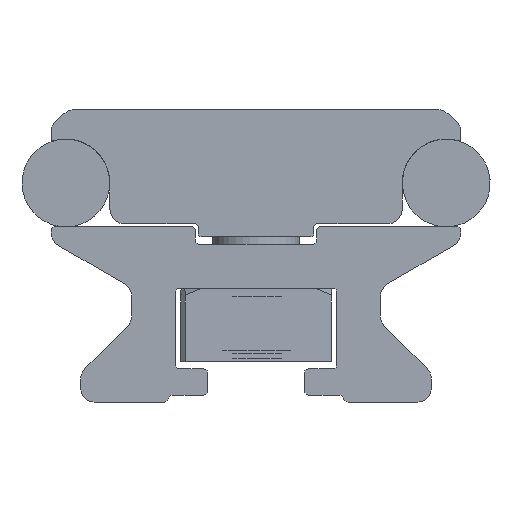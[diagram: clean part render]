
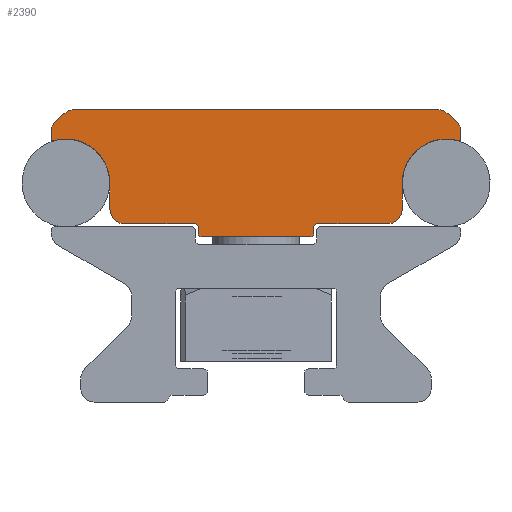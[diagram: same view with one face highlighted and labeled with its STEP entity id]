
A CAD part, left-side view. The second image highlights one B-rep face of the part: STEP entity #2390.
In plain terms, the highlighted planar face has unit normal (-1, 0, 0).
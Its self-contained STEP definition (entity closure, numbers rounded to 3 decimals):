
#105=CIRCLE('',#2563,3.011);
#107=CIRCLE('',#2566,0.1);
#109=CIRCLE('',#2570,1.);
#111=CIRCLE('',#2574,1.);
#120=CIRCLE('',#2585,1.);
#122=CIRCLE('',#2589,1.);
#124=CIRCLE('',#2593,0.1);
#126=CIRCLE('',#2596,3.011);
#128=CIRCLE('',#2600,1.);
#130=CIRCLE('',#2604,0.2);
#132=CIRCLE('',#2608,0.2);
#141=CIRCLE('',#2619,0.2);
#143=CIRCLE('',#2623,0.2);
#145=CIRCLE('',#2627,1.);
#437=ORIENTED_EDGE('',*,*,#949,.F.);
#438=ORIENTED_EDGE('',*,*,#1039,.F.);
#439=ORIENTED_EDGE('',*,*,#1036,.F.);
#440=ORIENTED_EDGE('',*,*,#1033,.F.);
#441=ORIENTED_EDGE('',*,*,#1030,.F.);
#442=ORIENTED_EDGE('',*,*,#1027,.F.);
#443=ORIENTED_EDGE('',*,*,#1024,.F.);
#444=ORIENTED_EDGE('',*,*,#1014,.F.);
#445=ORIENTED_EDGE('',*,*,#1011,.F.);
#446=ORIENTED_EDGE('',*,*,#1008,.F.);
#447=ORIENTED_EDGE('',*,*,#1005,.F.);
#448=ORIENTED_EDGE('',*,*,#1002,.F.);
#449=ORIENTED_EDGE('',*,*,#999,.F.);
#450=ORIENTED_EDGE('',*,*,#996,.F.);
#451=ORIENTED_EDGE('',*,*,#993,.F.);
#452=ORIENTED_EDGE('',*,*,#990,.F.);
#453=ORIENTED_EDGE('',*,*,#987,.F.);
#454=ORIENTED_EDGE('',*,*,#984,.F.);
#455=ORIENTED_EDGE('',*,*,#981,.F.);
#456=ORIENTED_EDGE('',*,*,#978,.F.);
#457=ORIENTED_EDGE('',*,*,#968,.F.);
#458=ORIENTED_EDGE('',*,*,#965,.F.);
#459=ORIENTED_EDGE('',*,*,#962,.F.);
#460=ORIENTED_EDGE('',*,*,#959,.F.);
#461=ORIENTED_EDGE('',*,*,#956,.F.);
#462=ORIENTED_EDGE('',*,*,#953,.F.);
#949=EDGE_CURVE('',#1277,#1278,#1510,.T.);
#953=EDGE_CURVE('',#1278,#1281,#105,.T.);
#956=EDGE_CURVE('',#1281,#1283,#107,.T.);
#959=EDGE_CURVE('',#1283,#1285,#1516,.T.);
#962=EDGE_CURVE('',#1285,#1287,#109,.T.);
#965=EDGE_CURVE('',#1287,#1289,#1520,.T.);
#968=EDGE_CURVE('',#1289,#1291,#111,.T.);
#978=EDGE_CURVE('',#1291,#1300,#1524,.T.);
#981=EDGE_CURVE('',#1300,#1302,#120,.T.);
#984=EDGE_CURVE('',#1302,#1304,#1528,.T.);
#987=EDGE_CURVE('',#1304,#1306,#122,.T.);
#990=EDGE_CURVE('',#1306,#1308,#1532,.T.);
#993=EDGE_CURVE('',#1308,#1310,#124,.T.);
#996=EDGE_CURVE('',#1310,#1312,#126,.T.);
#999=EDGE_CURVE('',#1312,#1314,#1537,.T.);
#1002=EDGE_CURVE('',#1314,#1316,#128,.T.);
#1005=EDGE_CURVE('',#1316,#1318,#1541,.T.);
#1008=EDGE_CURVE('',#1318,#1320,#130,.T.);
#1011=EDGE_CURVE('',#1320,#1322,#1545,.T.);
#1014=EDGE_CURVE('',#1322,#1324,#132,.T.);
#1024=EDGE_CURVE('',#1324,#1333,#1549,.T.);
#1027=EDGE_CURVE('',#1333,#1335,#141,.T.);
#1030=EDGE_CURVE('',#1335,#1337,#1553,.T.);
#1033=EDGE_CURVE('',#1337,#1339,#143,.T.);
#1036=EDGE_CURVE('',#1339,#1341,#1557,.T.);
#1039=EDGE_CURVE('',#1341,#1277,#145,.T.);
#1277=VERTEX_POINT('',#3619);
#1278=VERTEX_POINT('',#3620);
#1281=VERTEX_POINT('',#3628);
#1283=VERTEX_POINT('',#3634);
#1285=VERTEX_POINT('',#3640);
#1287=VERTEX_POINT('',#3646);
#1289=VERTEX_POINT('',#3652);
#1291=VERTEX_POINT('',#3658);
#1300=VERTEX_POINT('',#3678);
#1302=VERTEX_POINT('',#3684);
#1304=VERTEX_POINT('',#3690);
#1306=VERTEX_POINT('',#3696);
#1308=VERTEX_POINT('',#3702);
#1310=VERTEX_POINT('',#3708);
#1312=VERTEX_POINT('',#3714);
#1314=VERTEX_POINT('',#3720);
#1316=VERTEX_POINT('',#3726);
#1318=VERTEX_POINT('',#3732);
#1320=VERTEX_POINT('',#3738);
#1322=VERTEX_POINT('',#3744);
#1324=VERTEX_POINT('',#3750);
#1333=VERTEX_POINT('',#3770);
#1335=VERTEX_POINT('',#3776);
#1337=VERTEX_POINT('',#3782);
#1339=VERTEX_POINT('',#3788);
#1341=VERTEX_POINT('',#3794);
#1510=LINE('',#3618,#1711);
#1516=LINE('',#3639,#1717);
#1520=LINE('',#3651,#1721);
#1524=LINE('',#3677,#1725);
#1528=LINE('',#3689,#1729);
#1532=LINE('',#3701,#1733);
#1537=LINE('',#3719,#1738);
#1541=LINE('',#3731,#1742);
#1545=LINE('',#3743,#1746);
#1549=LINE('',#3769,#1750);
#1553=LINE('',#3781,#1754);
#1557=LINE('',#3793,#1758);
#1711=VECTOR('',#2849,1000.);
#1717=VECTOR('',#2869,1000.);
#1721=VECTOR('',#2881,1000.);
#1725=VECTOR('',#2907,1000.);
#1729=VECTOR('',#2919,1000.);
#1733=VECTOR('',#2931,1000.);
#1738=VECTOR('',#2950,1000.);
#1742=VECTOR('',#2962,1000.);
#1746=VECTOR('',#2974,1000.);
#1750=VECTOR('',#3000,1000.);
#1754=VECTOR('',#3012,1000.);
#1758=VECTOR('',#3024,1000.);
#1953=EDGE_LOOP('',(#437,#438,#439,#440,#441,#442,#443,#444,#445,#446,#447,
#448,#449,#450,#451,#452,#453,#454,#455,#456,#457,#458,#459,#460,#461,#462));
#2142=FACE_BOUND('',#1953,.T.);
#2303=PLANE('',#2630);
#2390=ADVANCED_FACE('',(#2142),#2303,.T.);
#2563=AXIS2_PLACEMENT_3D('',#3627,#2855,#2856);
#2566=AXIS2_PLACEMENT_3D('',#3633,#2862,#2863);
#2570=AXIS2_PLACEMENT_3D('',#3645,#2874,#2875);
#2574=AXIS2_PLACEMENT_3D('',#3657,#2886,#2887);
#2585=AXIS2_PLACEMENT_3D('',#3683,#2912,#2913);
#2589=AXIS2_PLACEMENT_3D('',#3695,#2924,#2925);
#2593=AXIS2_PLACEMENT_3D('',#3707,#2936,#2937);
#2596=AXIS2_PLACEMENT_3D('',#3713,#2943,#2944);
#2600=AXIS2_PLACEMENT_3D('',#3725,#2955,#2956);
#2604=AXIS2_PLACEMENT_3D('',#3737,#2967,#2968);
#2608=AXIS2_PLACEMENT_3D('',#3749,#2979,#2980);
#2619=AXIS2_PLACEMENT_3D('',#3775,#3005,#3006);
#2623=AXIS2_PLACEMENT_3D('',#3787,#3017,#3018);
#2627=AXIS2_PLACEMENT_3D('',#3799,#3029,#3030);
#2630=AXIS2_PLACEMENT_3D('',#3802,#3035,#3036);
#2849=DIRECTION('',(0.,0.,1.));
#2855=DIRECTION('',(-1.,0.,0.));
#2856=DIRECTION('',(0.,1.,0.));
#2862=DIRECTION('',(1.,0.,0.));
#2863=DIRECTION('',(0.,-1.,0.));
#2869=DIRECTION('',(0.,0.,1.));
#2874=DIRECTION('',(1.,0.,0.));
#2875=DIRECTION('',(0.,1.,0.));
#2881=DIRECTION('',(0.,-0.766,0.643));
#2886=DIRECTION('',(1.,0.,0.));
#2887=DIRECTION('',(0.,1.,0.));
#2907=DIRECTION('',(0.,-1.,0.));
#2912=DIRECTION('',(1.,0.,0.));
#2913=DIRECTION('',(0.,1.,0.));
#2919=DIRECTION('',(0.,-0.766,-0.643));
#2924=DIRECTION('',(1.,0.,0.));
#2925=DIRECTION('',(0.,1.,0.));
#2931=DIRECTION('',(0.,0.,-1.));
#2936=DIRECTION('',(1.,0.,0.));
#2937=DIRECTION('',(0.,1.,0.));
#2943=DIRECTION('',(-1.,0.,0.));
#2944=DIRECTION('',(0.,1.,0.));
#2950=DIRECTION('',(0.,0.,-1.));
#2955=DIRECTION('',(1.,0.,0.));
#2956=DIRECTION('',(0.,1.,0.));
#2962=DIRECTION('',(0.,1.,0.));
#2967=DIRECTION('',(-1.,0.,0.));
#2968=DIRECTION('',(0.,-1.,0.));
#2974=DIRECTION('',(0.,0.,-1.));
#2979=DIRECTION('',(1.,0.,0.));
#2980=DIRECTION('',(0.,1.,0.));
#3000=DIRECTION('',(0.,1.,0.));
#3005=DIRECTION('',(1.,0.,0.));
#3006=DIRECTION('',(0.,-1.,0.));
#3012=DIRECTION('',(0.,0.,1.));
#3017=DIRECTION('',(-1.,0.,0.));
#3018=DIRECTION('',(0.,1.,0.));
#3024=DIRECTION('',(0.,1.,0.));
#3029=DIRECTION('',(1.,0.,0.));
#3030=DIRECTION('',(0.,-1.,0.));
#3035=DIRECTION('',(-1.,0.,0.));
#3036=DIRECTION('',(0.,-1.,0.));
#3618=CARTESIAN_POINT('',(-257.2,2405.317,2043.28));
#3619=CARTESIAN_POINT('',(-257.2,2405.317,2043.28));
#3620=CARTESIAN_POINT('',(-257.2,2405.317,2045.071));
#3627=CARTESIAN_POINT('',(-257.2,2408.327,2045.066));
#3628=CARTESIAN_POINT('',(-257.2,2409.188,2047.951));
#3633=CARTESIAN_POINT('',(-257.2,2409.217,2048.047));
#3634=CARTESIAN_POINT('',(-257.2,2409.317,2048.047));
#3639=CARTESIAN_POINT('',(-257.2,2409.317,2048.047));
#3640=CARTESIAN_POINT('',(-257.2,2409.317,2048.604));
#3645=CARTESIAN_POINT('',(-257.2,2408.317,2048.604));
#3646=CARTESIAN_POINT('',(-257.2,2408.96,2049.37));
#3651=CARTESIAN_POINT('',(-257.2,2408.96,2049.37));
#3652=CARTESIAN_POINT('',(-257.2,2408.392,2049.846));
#3657=CARTESIAN_POINT('',(-257.2,2407.749,2049.08));
#3658=CARTESIAN_POINT('',(-257.2,2407.749,2050.08));
#3677=CARTESIAN_POINT('',(-257.2,2407.749,2050.08));
#3678=CARTESIAN_POINT('',(-257.2,2382.885,2050.08));
#3683=CARTESIAN_POINT('',(-257.2,2382.885,2049.08));
#3684=CARTESIAN_POINT('',(-257.2,2382.242,2049.846));
#3689=CARTESIAN_POINT('',(-257.2,2382.242,2049.846));
#3690=CARTESIAN_POINT('',(-257.2,2381.674,2049.37));
#3695=CARTESIAN_POINT('',(-257.2,2382.317,2048.604));
#3696=CARTESIAN_POINT('',(-257.2,2381.317,2048.604));
#3701=CARTESIAN_POINT('',(-257.2,2381.317,2048.604));
#3702=CARTESIAN_POINT('',(-257.2,2381.317,2048.047));
#3707=CARTESIAN_POINT('',(-257.2,2381.417,2048.047));
#3708=CARTESIAN_POINT('',(-257.2,2381.446,2047.951));
#3713=CARTESIAN_POINT('',(-257.2,2382.306,2045.066));
#3714=CARTESIAN_POINT('',(-257.2,2385.317,2045.08));
#3719=CARTESIAN_POINT('',(-257.2,2385.317,2045.08));
#3720=CARTESIAN_POINT('',(-257.2,2385.317,2043.28));
#3725=CARTESIAN_POINT('',(-257.2,2386.317,2043.28));
#3726=CARTESIAN_POINT('',(-257.2,2386.317,2042.28));
#3731=CARTESIAN_POINT('',(-257.2,2386.317,2042.28));
#3732=CARTESIAN_POINT('',(-257.2,2391.165,2042.28));
#3737=CARTESIAN_POINT('',(-257.2,2391.165,2042.08));
#3738=CARTESIAN_POINT('',(-257.2,2391.365,2042.08));
#3743=CARTESIAN_POINT('',(-257.2,2391.365,2042.08));
#3744=CARTESIAN_POINT('',(-257.2,2391.365,2041.58));
#3749=CARTESIAN_POINT('',(-257.2,2391.565,2041.58));
#3750=CARTESIAN_POINT('',(-257.2,2391.565,2041.38));
#3769=CARTESIAN_POINT('',(-257.2,2395.317,2041.38));
#3770=CARTESIAN_POINT('',(-257.2,2399.069,2041.38));
#3775=CARTESIAN_POINT('',(-257.2,2399.069,2041.58));
#3776=CARTESIAN_POINT('',(-257.2,2399.269,2041.58));
#3781=CARTESIAN_POINT('',(-257.2,2399.269,2041.58));
#3782=CARTESIAN_POINT('',(-257.2,2399.269,2042.08));
#3787=CARTESIAN_POINT('',(-257.2,2399.469,2042.08));
#3788=CARTESIAN_POINT('',(-257.2,2399.469,2042.28));
#3793=CARTESIAN_POINT('',(-257.2,2399.469,2042.28));
#3794=CARTESIAN_POINT('',(-257.2,2404.317,2042.28));
#3799=CARTESIAN_POINT('',(-257.2,2404.317,2043.28));
#3802=CARTESIAN_POINT('',(-257.2,2408.327,2045.066));
